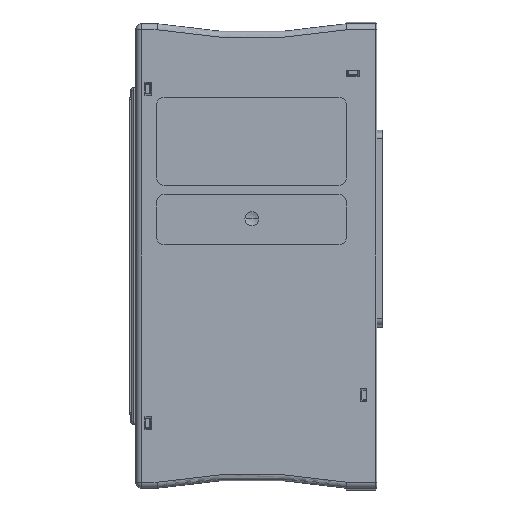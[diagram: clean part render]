
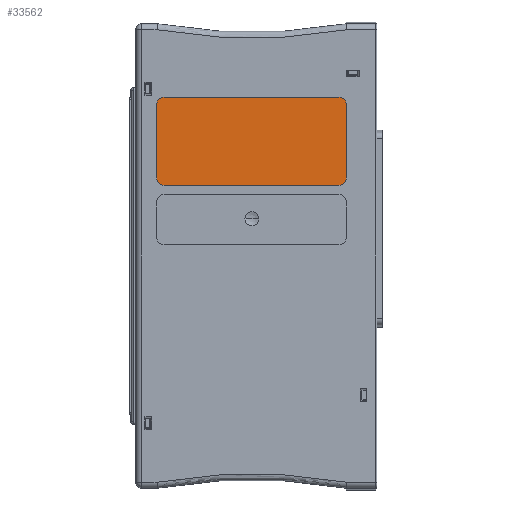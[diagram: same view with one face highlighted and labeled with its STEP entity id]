
A CAD part, front view. The second image highlights one B-rep face of the part: STEP entity #33562.
In plain terms, the highlighted planar face has unit normal (0, -1, 0).
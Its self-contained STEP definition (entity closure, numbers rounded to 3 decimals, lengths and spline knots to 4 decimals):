
#8161=CARTESIAN_POINT('',(-0.944,0.008,1.63));
#8162=DIRECTION('',(0.,-1.,0.));
#8163=DIRECTION('',(0.,0.,1.));
#8164=AXIS2_PLACEMENT_3D('',#8161,#8162,#8163);
#8166=DIRECTION('',(-1.,0.,0.));
#8167=VECTOR('',#8166,1.881);
#8168=CARTESIAN_POINT('',(0.937,0.008,1.71));
#8169=LINE('',#8168,#8167);
#8170=CARTESIAN_POINT('',(0.937,0.008,1.63));
#8171=DIRECTION('',(0.,-1.,0.));
#8172=DIRECTION('',(1.,0.,0.));
#8173=AXIS2_PLACEMENT_3D('',#8170,#8171,#8172);
#8175=DIRECTION('',(0.,0.,1.));
#8176=VECTOR('',#8175,0.788);
#8177=CARTESIAN_POINT('',(1.017,0.008,0.842));
#8178=LINE('',#8177,#8176);
#8179=CARTESIAN_POINT('',(0.937,0.008,0.842));
#8180=DIRECTION('',(0.,-1.,0.));
#8181=DIRECTION('',(0.,0.,-1.));
#8182=AXIS2_PLACEMENT_3D('',#8179,#8180,#8181);
#8184=DIRECTION('',(1.,0.,0.));
#8185=VECTOR('',#8184,1.881);
#8186=CARTESIAN_POINT('',(-0.944,0.008,0.762));
#8187=LINE('',#8186,#8185);
#8188=CARTESIAN_POINT('',(-0.944,0.008,0.842));
#8189=DIRECTION('',(0.,-1.,0.));
#8190=DIRECTION('',(-1.,0.,0.));
#8191=AXIS2_PLACEMENT_3D('',#8188,#8189,#8190);
#8193=DIRECTION('',(0.,0.,-1.));
#8194=VECTOR('',#8193,0.788);
#8195=CARTESIAN_POINT('',(-1.024,0.008,1.63));
#8196=LINE('',#8195,#8194);
#19021=CARTESIAN_POINT('',(-0.944,0.008,1.71));
#19022=CARTESIAN_POINT('',(-1.024,0.008,1.63));
#19023=VERTEX_POINT('',#19021);
#19024=VERTEX_POINT('',#19022);
#19025=CARTESIAN_POINT('',(-1.024,0.008,0.842));
#19026=VERTEX_POINT('',#19025);
#19027=CARTESIAN_POINT('',(-0.944,0.008,0.762));
#19028=VERTEX_POINT('',#19027);
#19029=CARTESIAN_POINT('',(0.937,0.008,0.762));
#19030=VERTEX_POINT('',#19029);
#19031=CARTESIAN_POINT('',(1.017,0.008,0.842));
#19032=VERTEX_POINT('',#19031);
#19033=CARTESIAN_POINT('',(1.017,0.008,1.63));
#19034=VERTEX_POINT('',#19033);
#19035=CARTESIAN_POINT('',(0.937,0.008,1.71));
#19036=VERTEX_POINT('',#19035);
#33547=CARTESIAN_POINT('',(0.,0.008,0.));
#33548=DIRECTION('',(0.,-1.,0.));
#33549=DIRECTION('',(1.,0.,0.));
#33550=AXIS2_PLACEMENT_3D('',#33547,#33548,#33549);
#33551=PLANE('',#33550);
#33552=ORIENTED_EDGE('',*,*,#33443,.F.);
#33553=ORIENTED_EDGE('',*,*,#33458,.F.);
#33554=ORIENTED_EDGE('',*,*,#33472,.F.);
#33555=ORIENTED_EDGE('',*,*,#33486,.F.);
#33556=ORIENTED_EDGE('',*,*,#33500,.F.);
#33557=ORIENTED_EDGE('',*,*,#33514,.F.);
#33558=ORIENTED_EDGE('',*,*,#33528,.F.);
#33559=ORIENTED_EDGE('',*,*,#33541,.F.);
#33560=EDGE_LOOP('',(#33552,#33553,#33554,#33555,#33556,#33557,#33558,#33559));
#33561=FACE_OUTER_BOUND('',#33560,.F.);
#33562=ADVANCED_FACE('',(#33561),#33551,.T.);
#8165=CIRCLE('',#8164,0.08);
#8174=CIRCLE('',#8173,0.08);
#8183=CIRCLE('',#8182,0.08);
#8192=CIRCLE('',#8191,0.08);
#33443=EDGE_CURVE('',#19023,#19024,#8165,.T.);
#33458=EDGE_CURVE('',#19036,#19023,#8169,.T.);
#33472=EDGE_CURVE('',#19034,#19036,#8174,.T.);
#33486=EDGE_CURVE('',#19032,#19034,#8178,.T.);
#33500=EDGE_CURVE('',#19030,#19032,#8183,.T.);
#33514=EDGE_CURVE('',#19028,#19030,#8187,.T.);
#33528=EDGE_CURVE('',#19026,#19028,#8192,.T.);
#33541=EDGE_CURVE('',#19024,#19026,#8196,.T.);
